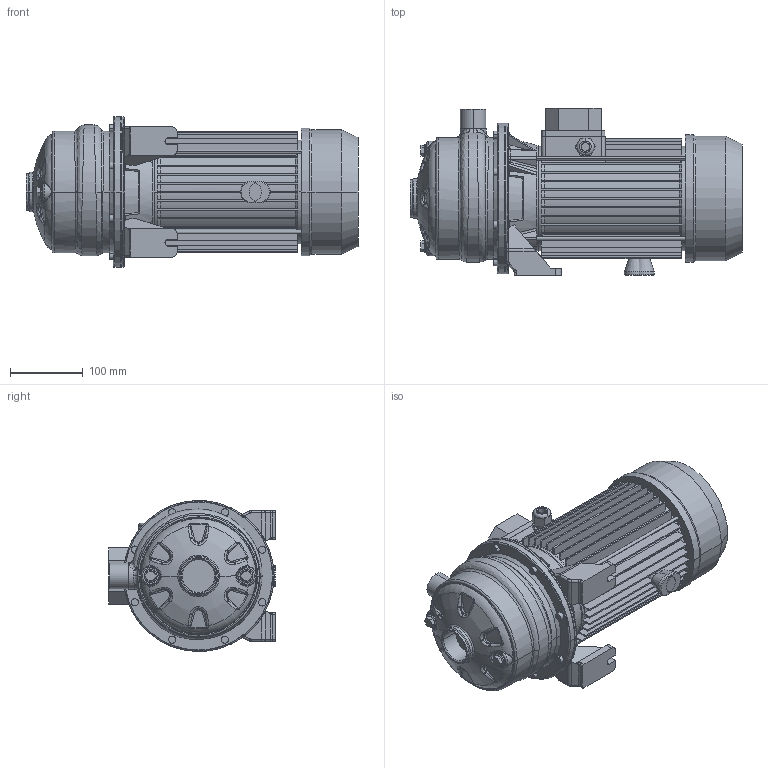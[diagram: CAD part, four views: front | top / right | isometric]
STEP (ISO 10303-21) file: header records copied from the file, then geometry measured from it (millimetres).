
FILE_DESCRIPTION((''),'2;1');
FILE_NAME('2CDX_200_30_IE2_ASM','2011-06-30T',('Utente'),('"Ebara Pumps Europe +39.444.706811"'),'PRO/ENGINEER BY PARAMETRIC TECHNOLOGY CORPORATION, 2009360','PRO/ENGINEER BY PARAMETRIC TECHNOLOGY CORPORATION, 2009360','');
FILE_SCHEMA(('AUTOMOTIVE_DESIGN { 1 0 10303 214 1 1 1 1 }'));
Length unit declared in the file: millimetre
Products named in the file (5): MEC_90X140_IE2; 80564; 251420689; 72027; 2CDX_200_30_IE2_ASM
Assembly tree (5 placements, depth 2):
  2CDX_200_30_IE2_ASM
    MEC_90X140_IE2
    80564
    251420689
    72027  x2
Bounding box: 457.5 x 230 x 208 mm (x, y, z)
Volume: 5426109.9 mm3; surface area: 768518.7 mm2
Topology: 5 solids, 5 shells, 956 faces, 2295 edges, 1388 vertices
Faces by surface type: plane 384, cylinder 204, bspline 170, cone 116, torus 72, sphere 10
Entity records: 44666 total; most frequent: CARTESIAN_POINT 15412, ORIENTED_EDGE 4562, DIRECTION 4131, EDGE_CURVE 2281, PRESENTATION_STYLE_ASSIGNMENT 2270, STYLED_ITEM 2270, CURVE_STYLE 2267, AXIS2_PLACEMENT_3D 1634
